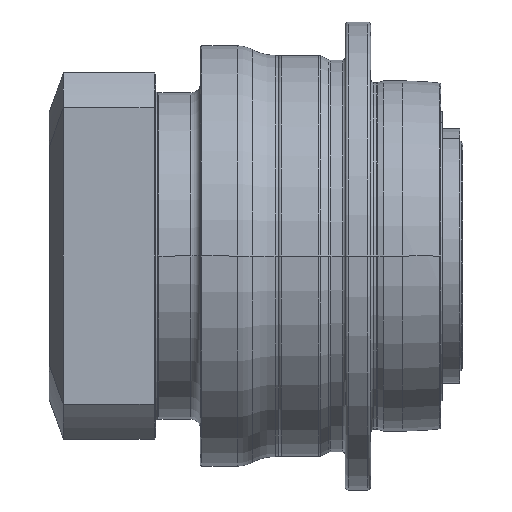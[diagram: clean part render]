
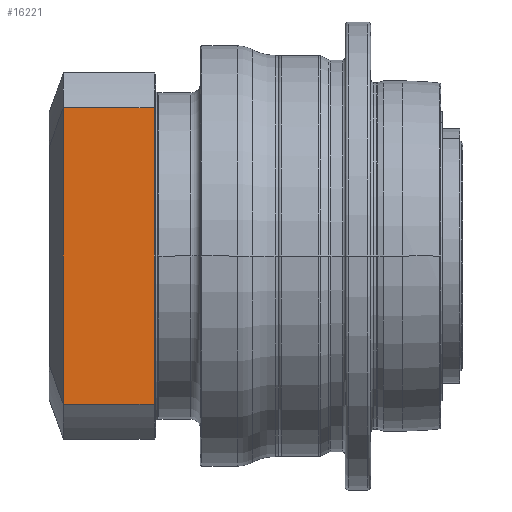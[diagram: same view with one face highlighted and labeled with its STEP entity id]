
A CAD part, front view. The second image highlights one B-rep face of the part: STEP entity #16221.
In plain terms, the highlighted planar face has unit normal (0, -1, 0) as drawn and (0, 1, 0) by its records, which use the part's own axes.
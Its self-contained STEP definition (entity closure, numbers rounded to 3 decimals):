
#14976=CARTESIAN_POINT('',(-46.581,57.5,31.5));
#14978=DIRECTION('',(-1.,0.,0.));
#14979=VECTOR('',#14978,93.161);
#14980=CARTESIAN_POINT('',(46.581,57.5,31.5));
#14981=LINE('',#14980,#14979);
#14982=DIRECTION('',(0.,0.,1.));
#14983=VECTOR('',#14982,28.5);
#14984=CARTESIAN_POINT('',(-46.581,57.5,3.));
#14985=LINE('',#14984,#14983);
#14986=DIRECTION('',(0.,0.,1.));
#14987=VECTOR('',#14986,28.5);
#14988=CARTESIAN_POINT('',(46.581,57.5,3.));
#14989=LINE('',#14988,#14987);
#15010=DIRECTION('',(-1.,0.,0.));
#15011=VECTOR('',#15010,93.161);
#15012=CARTESIAN_POINT('',(46.581,57.5,3.));
#15013=LINE('',#15012,#15011);
#15443=CARTESIAN_POINT('',(46.581,57.5,3.));
#15444=CARTESIAN_POINT('',(-46.581,57.5,3.));
#15445=VERTEX_POINT('',#15443);
#15446=VERTEX_POINT('',#15444);
#15520=CARTESIAN_POINT('',(46.581,57.5,31.5));
#15522=VERTEX_POINT('',#15520);
#15524=VERTEX_POINT('',#14976);
#16207=CARTESIAN_POINT('',(57.5,57.5,0.));
#16208=DIRECTION('',(0.,1.,0.));
#16209=DIRECTION('',(-1.,0.,0.));
#16210=AXIS2_PLACEMENT_3D('',#16207,#16208,#16209);
#16211=PLANE('',#16210);
#16212=ORIENTED_EDGE('',*,*,#16202,.T.);
#16214=ORIENTED_EDGE('',*,*,#16213,.F.);
#16216=ORIENTED_EDGE('',*,*,#16215,.F.);
#16218=ORIENTED_EDGE('',*,*,#16217,.T.);
#16219=EDGE_LOOP('',(#16212,#16214,#16216,#16218));
#16220=FACE_OUTER_BOUND('',#16219,.F.);
#16221=ADVANCED_FACE('',(#16220),#16211,.T.);
#16202=EDGE_CURVE('',#15522,#15524,#14981,.T.);
#16213=EDGE_CURVE('',#15446,#15524,#14985,.T.);
#16215=EDGE_CURVE('',#15445,#15446,#15013,.T.);
#16217=EDGE_CURVE('',#15445,#15522,#14989,.T.);
